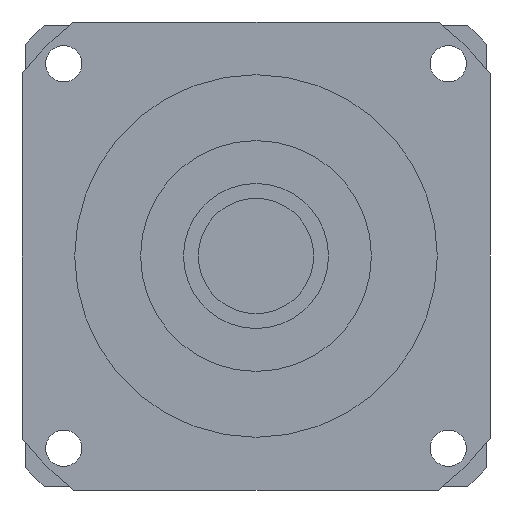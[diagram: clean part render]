
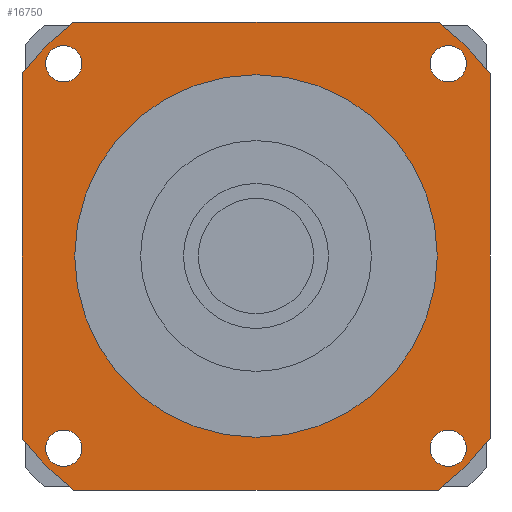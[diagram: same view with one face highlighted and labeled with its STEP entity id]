
A CAD part, left-side view. The second image highlights one B-rep face of the part: STEP entity #16750.
In plain terms, the highlighted planar face has unit normal (-1, 0, 0) as drawn and (0, 0, -1) by its records, which use the part's own axes.
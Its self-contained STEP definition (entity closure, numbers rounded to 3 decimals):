
#13100=CARTESIAN_POINT('',(71.,-55.308,-84.7));
#13110=VERTEX_POINT('',#13100);
#13160=CARTESIAN_POINT('',(0.,0.,
-84.7));
#13170=DIRECTION('',(0.,0.,-1.));
#13180=DIRECTION('',(1.,0.,0.));
#13190=AXIS2_PLACEMENT_3D('',#13160,#13170,#13180);
#13200=CIRCLE('',#13190,90.);
#13210=CARTESIAN_POINT('',(55.308,-71.,-84.7));
#13220=VERTEX_POINT('',#13210);
#13230=EDGE_CURVE('',#13110,#13220,#13200,.T.);
#13520=CARTESIAN_POINT('',(71.,55.308,-84.7));
#13530=VERTEX_POINT('',#13520);
#13580=CARTESIAN_POINT('',(71.,71.,-84.7));
#13590=DIRECTION('',(0.,-1.,0.));
#13600=VECTOR('',#13590,1000.);
#13610=LINE('',#13580,#13600);
#13620=EDGE_CURVE('',#13530,#13110,#13610,.T.);
#15250=CARTESIAN_POINT('',(52.836,-58.336,-84.7));
#15260=VERTEX_POINT('',#15250);
#15290=CARTESIAN_POINT('',(58.336,-58.336,-84.7));
#15300=DIRECTION('',(0.,0.,-1.));
#15310=DIRECTION('',(1.,0.,0.));
#15320=AXIS2_PLACEMENT_3D('',#15290,#15300,#15310);
#15330=CIRCLE('',#15320,5.5);
#15340=CARTESIAN_POINT('',(63.836,-58.336,-84.7));
#15350=VERTEX_POINT('',#15340);
#15360=EDGE_CURVE('',#15350,#15260,#15330,.T.);
#15480=CARTESIAN_POINT('',(71.,71.,-84.7));
#15490=DIRECTION('',(0.,0.,-1.));
#15500=DIRECTION('',(1.,0.,0.));
#15510=AXIS2_PLACEMENT_3D('',#15480,#15490,#15500);
#15520=PLANE('',#15510);
#15530=CARTESIAN_POINT('',(-58.336,-58.336,-84.7));
#15540=DIRECTION('',(0.,0.,-1.));
#15550=DIRECTION('',(0.,-1.,0.));
#15560=AXIS2_PLACEMENT_3D('',#15530,#15540,#15550);
#15570=CIRCLE('',#15560,5.5);
#15580=CARTESIAN_POINT('',(-58.336,-63.836,-84.7));
#15590=VERTEX_POINT('',#15580);
#15600=CARTESIAN_POINT('',(-58.336,-52.836,-84.7));
#15610=VERTEX_POINT('',#15600);
#15620=EDGE_CURVE('',#15590,#15610,#15570,.T.);
#15630=ORIENTED_EDGE('',*,*,#15620,.F.);
#15640=EDGE_CURVE('',#15610,#15590,#15570,.T.);
#15650=ORIENTED_EDGE('',*,*,#15640,.F.);
#15660=EDGE_LOOP('',(#15650,#15630));
#15670=FACE_BOUND('',#15660,.T.);
#15680=CARTESIAN_POINT('',(-58.336,58.336,-84.7));
#15690=DIRECTION('',(0.,0.,-1.));
#15700=DIRECTION('',(-1.,0.,0.));
#15710=AXIS2_PLACEMENT_3D('',#15680,#15690,#15700);
#15720=CIRCLE('',#15710,5.5);
#15730=CARTESIAN_POINT('',(-63.836,58.336,-84.7));
#15740=VERTEX_POINT('',#15730);
#15750=CARTESIAN_POINT('',(-52.836,58.336,-84.7));
#15760=VERTEX_POINT('',#15750);
#15770=EDGE_CURVE('',#15740,#15760,#15720,.T.);
#15780=ORIENTED_EDGE('',*,*,#15770,.F.);
#15790=EDGE_CURVE('',#15760,#15740,#15720,.T.);
#15800=ORIENTED_EDGE('',*,*,#15790,.F.);
#15810=EDGE_LOOP('',(#15800,#15780));
#15820=FACE_BOUND('',#15810,.T.);
#15830=CARTESIAN_POINT('',(58.336,58.336,-84.7));
#15840=DIRECTION('',(0.,0.,-1.));
#15850=DIRECTION('',(0.,1.,0.));
#15860=AXIS2_PLACEMENT_3D('',#15830,#15840,#15850);
#15870=CIRCLE('',#15860,5.5);
#15880=CARTESIAN_POINT('',(58.336,63.836,-84.7));
#15890=VERTEX_POINT('',#15880);
#15900=CARTESIAN_POINT('',(58.336,52.836,-84.7));
#15910=VERTEX_POINT('',#15900);
#15920=EDGE_CURVE('',#15890,#15910,#15870,.T.);
#15930=ORIENTED_EDGE('',*,*,#15920,.F.);
#15940=EDGE_CURVE('',#15910,#15890,#15870,.T.);
#15950=ORIENTED_EDGE('',*,*,#15940,.F.);
#15960=EDGE_LOOP('',(#15950,#15930));
#15970=FACE_BOUND('',#15960,.T.);
#15980=CARTESIAN_POINT('',(0.,0.,
-84.7));
#15990=DIRECTION('',(0.,0.,1.));
#16000=DIRECTION('',(0.,1.,0.));
#16010=AXIS2_PLACEMENT_3D('',#15980,#15990,#16000);
#16020=CIRCLE('',#16010,55.);
#16030=CARTESIAN_POINT('',(-55.,0.,-84.7));
#16040=VERTEX_POINT('',#16030);
#16050=CARTESIAN_POINT('',(55.,0.,-84.7));
#16060=VERTEX_POINT('',#16050);
#16070=EDGE_CURVE('',#16040,#16060,#16020,.T.);
#16080=ORIENTED_EDGE('',*,*,#16070,.T.);
#16090=CARTESIAN_POINT('',(0.,55.,-84.7));
#16100=VERTEX_POINT('',#16090);
#16110=EDGE_CURVE('',#16100,#16040,#16020,.T.);
#16120=ORIENTED_EDGE('',*,*,#16110,.T.);
#16130=EDGE_CURVE('',#16060,#16100,#16020,.T.);
#16140=ORIENTED_EDGE('',*,*,#16130,.T.);
#16150=EDGE_LOOP('',(#16140,#16120,#16080));
#16160=FACE_BOUND('',#16150,.T.);
#16170=CARTESIAN_POINT('',(-71.,71.,-84.7));
#16180=DIRECTION('',(1.,0.,0.));
#16190=VECTOR('',#16180,1000.);
#16200=LINE('',#16170,#16190);
#16210=CARTESIAN_POINT('',(-55.308,71.,-84.7));
#16220=VERTEX_POINT('',#16210);
#16230=CARTESIAN_POINT('',(55.308,71.,-84.7));
#16240=VERTEX_POINT('',#16230);
#16250=EDGE_CURVE('',#16220,#16240,#16200,.T.);
#16260=ORIENTED_EDGE('',*,*,#16250,.T.);
#16270=CARTESIAN_POINT('',(0.,0.,
-84.7));
#16280=DIRECTION('',(0.,0.,-1.));
#16290=DIRECTION('',(1.,0.,0.));
#16300=AXIS2_PLACEMENT_3D('',#16270,#16280,#16290);
#16310=CIRCLE('',#16300,90.);
#16320=CARTESIAN_POINT('',(-71.,55.308,-84.7));
#16330=VERTEX_POINT('',#16320);
#16340=EDGE_CURVE('',#16330,#16220,#16310,.T.);
#16350=ORIENTED_EDGE('',*,*,#16340,.T.);
#16360=CARTESIAN_POINT('',(-71.,-71.,-84.7));
#16370=DIRECTION('',(0.,1.,0.));
#16380=VECTOR('',#16370,1000.);
#16390=LINE('',#16360,#16380);
#16400=CARTESIAN_POINT('',(-71.,-55.308,-84.7));
#16410=VERTEX_POINT('',#16400);
#16420=EDGE_CURVE('',#16410,#16330,#16390,.T.);
#16430=ORIENTED_EDGE('',*,*,#16420,.T.);
#16440=CARTESIAN_POINT('',(0.,0.,
-84.7));
#16450=DIRECTION('',(0.,0.,-1.));
#16460=DIRECTION('',(1.,0.,0.));
#16470=AXIS2_PLACEMENT_3D('',#16440,#16450,#16460);
#16480=CIRCLE('',#16470,90.);
#16490=CARTESIAN_POINT('',(-55.308,-71.,-84.7));
#16500=VERTEX_POINT('',#16490);
#16510=EDGE_CURVE('',#16500,#16410,#16480,.T.);
#16520=ORIENTED_EDGE('',*,*,#16510,.T.);
#16530=CARTESIAN_POINT('',(71.,-71.,-84.7));
#16540=DIRECTION('',(-1.,0.,0.));
#16550=VECTOR('',#16540,1000.);
#16560=LINE('',#16530,#16550);
#16570=EDGE_CURVE('',#13220,#16500,#16560,.T.);
#16580=ORIENTED_EDGE('',*,*,#16570,.T.);
#16590=ORIENTED_EDGE('',*,*,#13230,.T.);
#16600=ORIENTED_EDGE('',*,*,#13620,.T.);
#16610=CARTESIAN_POINT('',(0.,0.,
-84.7));
#16620=DIRECTION('',(0.,0.,-1.));
#16630=DIRECTION('',(1.,0.,0.));
#16640=AXIS2_PLACEMENT_3D('',#16610,#16620,#16630);
#16650=CIRCLE('',#16640,90.);
#16660=EDGE_CURVE('',#16240,#13530,#16650,.T.);
#16670=ORIENTED_EDGE('',*,*,#16660,.T.);
#16680=EDGE_LOOP('',(#16670,#16600,#16590,#16580,#16520,#16430,#16350,
#16260));
#16690=FACE_OUTER_BOUND('',#16680,.T.);
#16700=ORIENTED_EDGE('',*,*,#15360,.F.);
#16710=EDGE_CURVE('',#15260,#15350,#15330,.T.);
#16720=ORIENTED_EDGE('',*,*,#16710,.F.);
#16730=EDGE_LOOP('',(#16720,#16700));
#16740=FACE_BOUND('',#16730,.T.);
#16750=ADVANCED_FACE('',(#15670,#15820,#15970,#16160,#16690,#16740),
#15520,.T.);
